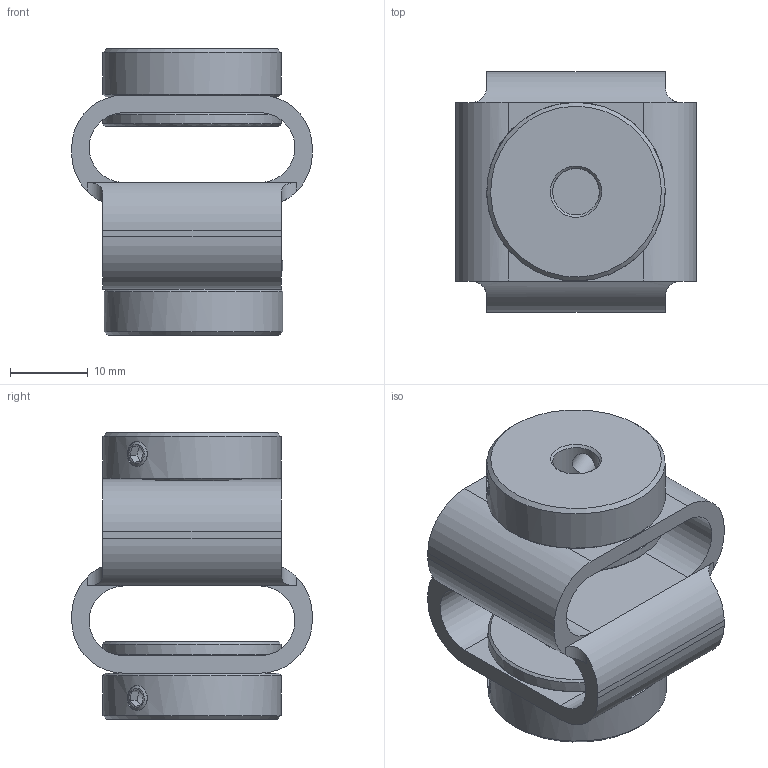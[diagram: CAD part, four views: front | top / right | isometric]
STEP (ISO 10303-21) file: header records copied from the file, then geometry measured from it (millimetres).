
FILE_DESCRIPTION(/* description */ (''),/* implementation_level */ '2;1');
FILE_NAME(/* name */ 'E:\ABP_bauteile\Doppelschlaufenkupplung\DKPS_3835\Doppelschlaufenku10.stp',/* time_stamp */ '2015-03-09T14:58:35+01:00',/* author */ ('Rob'),/* organization */ (''),/* preprocessor_version */ 'ST-DEVELOPER v15.6',/* originating_system */ 'Autodesk Inventor 2015',/* authorisation */ '');
FILE_SCHEMA (('CONFIG_CONTROL_DESIGN'));
Length unit declared in the file: millimetre
Products named in the file (1): Bauteil46
Bounding box: 31 x 31 x 36.95 mm (x, y, z)
Volume: 11698 mm3; surface area: 8006.7 mm2
Topology: 1 solids, 3 shells, 149 faces, 369 edges, 225 vertices
Faces by surface type: plane 84, cylinder 35, cone 30
Full cylindrical faces by diameter (mm): 3.242 x8, 6 x1, 10 x1, 14 x2, 15 x2, 23 x4
Entity records: 4237 total; most frequent: CARTESIAN_POINT 1081, DIRECTION 663, ORIENTED_EDGE 580, EDGE_CURVE 290, AXIS2_PLACEMENT_3D 260, EDGE_LOOP 205, VERTEX_POINT 191, FACE_OUTER_BOUND 149
